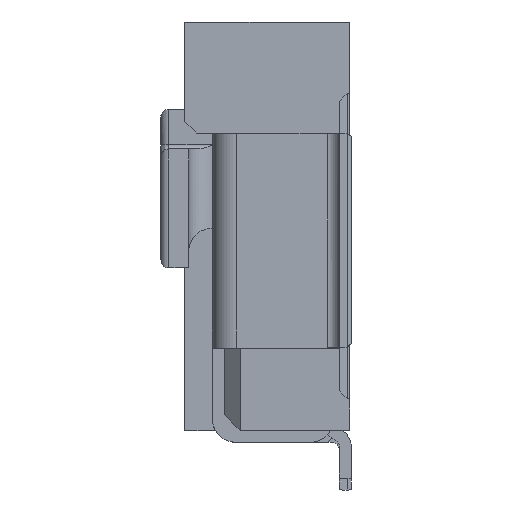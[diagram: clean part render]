
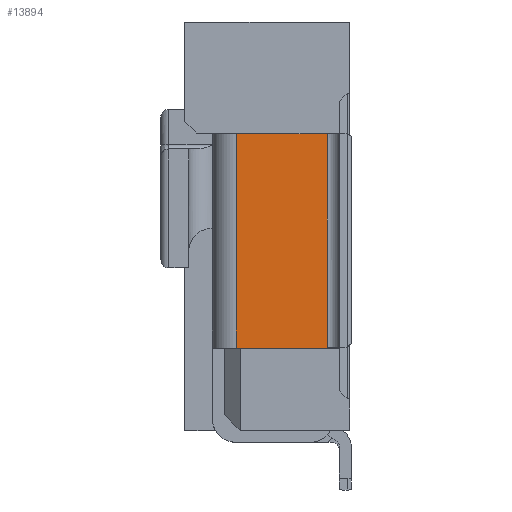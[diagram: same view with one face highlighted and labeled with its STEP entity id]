
A CAD part, left-side view. The second image highlights one B-rep face of the part: STEP entity #13894.
In plain terms, the highlighted planar face has unit normal (-1, 0, 0).
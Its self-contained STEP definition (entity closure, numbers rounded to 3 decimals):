
#537 = LINE ( 'NONE', #568, #23467 ) ;
#538 = LINE ( 'NONE', #544, #23482 ) ;
#544 = CARTESIAN_POINT ( 'NONE',  ( -15.4, 1.45, -4.1 ) ) ;
#545 = DIRECTION ( 'NONE',  ( 0., -1., 0. ) ) ;
#553 = LINE ( 'NONE', #574, #23461 ) ;
#564 = LINE ( 'NONE', #566, #23464 ) ;
#565 = LINE ( 'NONE', #577, #23459 ) ;
#566 = CARTESIAN_POINT ( 'NONE',  ( -15.4, 1.45, -4.11 ) ) ;
#567 = DIRECTION ( 'NONE',  ( 0., 0., 1. ) ) ;
#568 = CARTESIAN_POINT ( 'NONE',  ( -15.4, 1.45, -4.11 ) ) ;
#569 = DIRECTION ( 'NONE',  ( 0., 1., 0. ) ) ;
#570 = LINE ( 'NONE', #572, #23460 ) ;
#572 = CARTESIAN_POINT ( 'NONE',  ( -15.4, 0.15, -4.11 ) ) ;
#573 = DIRECTION ( 'NONE',  ( 0., 0., -1. ) ) ;
#574 = CARTESIAN_POINT ( 'NONE',  ( -15.4, 0.3, -4.11 ) ) ;
#576 = DIRECTION ( 'NONE',  ( 0., 0., -1. ) ) ;
#577 = CARTESIAN_POINT ( 'NONE',  ( -15.4, 1.45, -1.41 ) ) ;
#579 = DIRECTION ( 'NONE',  ( 0., -1., 0. ) ) ;
#1160 = VERTEX_POINT ( 'NONE', #16215 ) ;
#3890 = EDGE_LOOP ( 'NONE', ( #15268, #15503, #15392, #15404, #15413, #15407 ) ) ;
#7759 = CARTESIAN_POINT ( 'NONE',  ( -15.4, 1.45, -4.11 ) ) ;
#9589 = CARTESIAN_POINT ( 'NONE',  ( -15.4, 0.3, -1.41 ) ) ;
#9630 = CARTESIAN_POINT ( 'NONE',  ( -15.4, 1.45, -1.41 ) ) ;
#9699 = CARTESIAN_POINT ( 'NONE',  ( -15.4, 0.15, -4.1 ) ) ;
#9700 = CARTESIAN_POINT ( 'NONE',  ( -15.4, 0.15, -4.11 ) ) ;
#11521 = EDGE_CURVE ( 'NONE', #1160, #23793, #538, .T. ) ;
#11528 = EDGE_CURVE ( 'NONE', #19488, #23714, #564, .T. ) ;
#11529 = EDGE_CURVE ( 'NONE', #23795, #19488, #537, .T. ) ;
#11530 = EDGE_CURVE ( 'NONE', #23793, #23795, #570, .T. ) ;
#11531 = EDGE_CURVE ( 'NONE', #23616, #1160, #553, .T. ) ;
#11532 = EDGE_CURVE ( 'NONE', #23714, #23616, #565, .T. ) ;
#13894 = ADVANCED_FACE ( 'NONE', ( #22812 ), #22813, .F. ) ;
#15268 = ORIENTED_EDGE ( 'NONE', *, *, #11528, .F. ) ;
#15392 = ORIENTED_EDGE ( 'NONE', *, *, #11530, .F. ) ;
#15404 = ORIENTED_EDGE ( 'NONE', *, *, #11521, .F. ) ;
#15407 = ORIENTED_EDGE ( 'NONE', *, *, #11532, .F. ) ;
#15413 = ORIENTED_EDGE ( 'NONE', *, *, #11531, .F. ) ;
#15503 = ORIENTED_EDGE ( 'NONE', *, *, #11529, .F. ) ;
#16215 = CARTESIAN_POINT ( 'NONE',  ( -15.4, 0.3, -4.1 ) ) ;
#19488 = VERTEX_POINT ( 'NONE', #7759 ) ;
#22804 = CARTESIAN_POINT ( 'NONE',  ( -15.4, 1.45, -4.11 ) ) ;
#22812 = FACE_OUTER_BOUND ( 'NONE', #3890, .T. ) ;
#22813 = PLANE ( 'NONE',  #24163 ) ;
#22815 = DIRECTION ( 'NONE',  ( 1., 0., 0. ) ) ;
#22816 = DIRECTION ( 'NONE',  ( 0., 0., -1. ) ) ;
#23459 = VECTOR ( 'NONE', #579, 1000. ) ;
#23460 = VECTOR ( 'NONE', #573, 1000. ) ;
#23461 = VECTOR ( 'NONE', #576, 1000. ) ;
#23464 = VECTOR ( 'NONE', #567, 1000. ) ;
#23467 = VECTOR ( 'NONE', #569, 1000. ) ;
#23482 = VECTOR ( 'NONE', #545, 1000. ) ;
#23616 = VERTEX_POINT ( 'NONE', #9589 ) ;
#23714 = VERTEX_POINT ( 'NONE', #9630 ) ;
#23793 = VERTEX_POINT ( 'NONE', #9699 ) ;
#23795 = VERTEX_POINT ( 'NONE', #9700 ) ;
#24163 = AXIS2_PLACEMENT_3D ( 'NONE', #22804, #22815, #22816 ) ;
